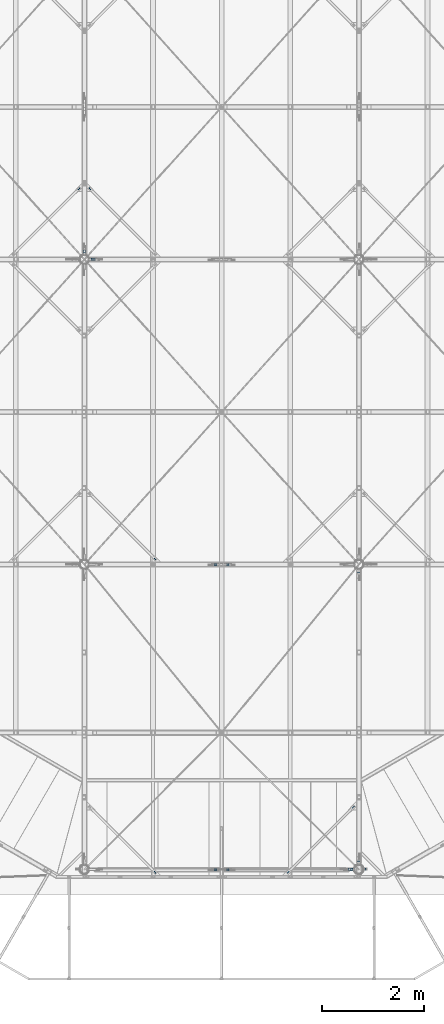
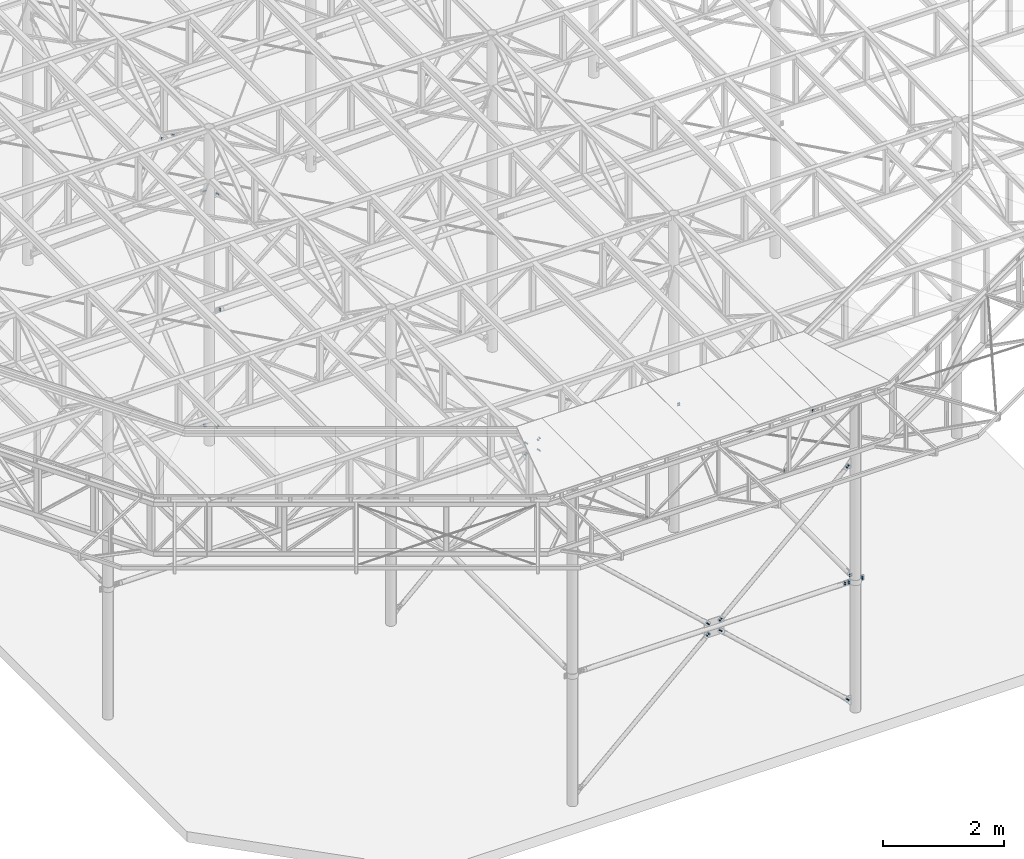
# One storey, part 117 of 132: 26 mechanical fasteners, 20 elements without a shape of their own.
"""IFC2X3 building model written with IfcOpenShell, lengths in millimetres."""

import ifcopenshell
import ifcopenshell.guid

model = None  # the IFC model being written
_history = None  # IfcOwnerHistory: only IFC2X3 demands one
_inside = {}  # id of a spatial element -> (the spatial element, [elements in it])
_under = {}  # id of a project, library or spatial element -> (it, [spatial elements below it])
_declared = {}  # id of a project -> (the project, [libraries it declares])
_typed = {}  # id of a type object -> (the type object, [elements of that type])
_made_of = {}  # id of a material, layer set ... -> (it, [elements and type objects made of it])


def new_model(schema):
    """Start an empty IFC model of exactly this schema.

    Asked for "IFC4X3", IfcOpenShell would pick the latest addendum, in which some entities
    have other attributes; the version numbers below select the first issue.
    IFC2X3 requires an IfcOwnerHistory on every rooted entity: one is made here for all.
    """
    global model, _history
    if schema == "IFC4X3":
        model = ifcopenshell.file(schema_version=(4, 3, 0, 0))
    else:
        model = ifcopenshell.file(schema=schema)
    _inside.clear()
    _under.clear()
    _declared.clear()
    _typed.clear()
    _made_of.clear()
    _history = None
    if model.schema == "IFC2X3":
        org = make("IfcOrganization", Name="unknown")
        user = make(
            "IfcPersonAndOrganization",
            ThePerson=make("IfcPerson", FamilyName="unknown"),
            TheOrganization=org,
        )
        app = make(
            "IfcApplication",
            ApplicationDeveloper=org,
            Version="unknown",
            ApplicationFullName="unknown",
            ApplicationIdentifier="unknown",
        )
        _history = make(
            "IfcOwnerHistory",
            OwningUser=user,
            OwningApplication=app,
            ChangeAction="ADDED",
            CreationDate=0,
        )
    return model


def make(cls, **values):
    """One entity of the class cls with the attributes given. An attribute that is None is left unset."""
    return model.create_entity(
        cls, **{name: value for name, value in values.items() if value is not None}
    )


def rooted(cls, **values):
    """An entity with a GlobalId (a new one), such as an element, a storey or a relation."""
    return make(cls, GlobalId=ifcopenshell.guid.new(), OwnerHistory=_history, **values)


def si_unit(unit_type, name, prefix=None):
    """IfcSIUnit, for example si_unit("LENGTHUNIT", "METRE", prefix="MILLI")."""
    return make("IfcSIUnit", UnitType=unit_type, Prefix=prefix, Name=name)


def assignment(units):
    """IfcUnitAssignment: the units of a project."""
    return None if units is None else make("IfcUnitAssignment", Units=units)


def point(xyz):
    """IfcCartesianPoint."""
    return None if xyz is None else make("IfcCartesianPoint", Coordinates=xyz)


def direction(xyz):
    """IfcDirection."""
    return None if xyz is None else make("IfcDirection", DirectionRatios=xyz)


def frame(location, z_axis=None, x_axis=None):
    """IfcAxis2Placement3D, a coordinate frame: its origin and axes. An axis left out is left unset."""
    return make(
        "IfcAxis2Placement3D",
        Location=point(location),
        Axis=direction(z_axis),
        RefDirection=direction(x_axis),
    )


def frame_2d(location, x_axis=None):
    """IfcAxis2Placement2D, a coordinate frame in the plane: its origin and x axis."""
    return make(
        "IfcAxis2Placement2D", Location=point(location), RefDirection=direction(x_axis)
    )


def origin_with_axes():
    """The frame at (0, 0, 0) with the z axis (0, 0, 1) and the x axis (1, 0, 0) written out."""
    return frame((0.0, 0.0, 0.0), z_axis=(0.0, 0.0, 1.0), x_axis=(1.0, 0.0, 0.0))


def origin_2d_with_axis():
    """The frame at (0, 0) in the plane with the x axis (1, 0) written out."""
    return frame_2d((0.0, 0.0), x_axis=(1.0, 0.0))


def place(relative_to, where):
    """IfcLocalPlacement: puts the frame where relative to a parent placement (None: the world)."""
    return make(
        "IfcLocalPlacement", PlacementRelTo=relative_to, RelativePlacement=where
    )


def context(
    kind, dimensions, precision=None, world=None, true_north=None, identifier=None
):
    """IfcGeometricRepresentationContext, for example the 3D "Model" context."""
    return make(
        "IfcGeometricRepresentationContext",
        ContextIdentifier=identifier,
        ContextType=kind,
        CoordinateSpaceDimension=dimensions,
        Precision=precision,
        WorldCoordinateSystem=world,
        TrueNorth=true_north,
    )


def subcontext(parent, identifier, kind, view, scale=None):
    """IfcGeometricRepresentationSubContext, for example "Body" below "Model"."""
    return make(
        "IfcGeometricRepresentationSubContext",
        ContextIdentifier=identifier,
        ContextType=kind,
        ParentContext=parent,
        TargetScale=scale,
        TargetView=view,
    )


def project(units=None, contexts=None):
    """IfcProject with its units and contexts."""
    return rooted(
        "IfcProject",
        Name="project",
        RepresentationContexts=contexts,
        UnitsInContext=assignment(units),
    )


def spatial(cls, under=None, at=None, **own):
    """A site, building, storey or space (cls), placed at a placement, below another one or the project."""
    s = rooted(cls, ObjectPlacement=at, **own)
    if under is not None:
        _under.setdefault(under.id(), (under, []))[1].append(s)
    return s


def polyline(points):
    """IfcPolyline through the points."""
    return make("IfcPolyline", Points=[point(p) for p in points])


def profile(cls, at=None, kind="AREA", **sizes):
    """A parametric profile (cls). Its sizes go by their IFC names, for example OverallWidth=200.0."""
    return make(cls, ProfileType=kind, Position=at, **sizes)


def circle(**sizes):
    """IfcCircleProfileDef."""
    return profile("IfcCircleProfileDef", **sizes)


def outline(outer, holes=None, kind="AREA"):
    """IfcArbitraryClosedProfileDef: a profile drawn as a closed curve; with holes, ...WithVoids."""
    if holes is None:
        return make("IfcArbitraryClosedProfileDef", ProfileType=kind, OuterCurve=outer)
    return make(
        "IfcArbitraryProfileDefWithVoids",
        ProfileType=kind,
        OuterCurve=outer,
        InnerCurves=holes,
    )


def extrude(swept, where, along, depth):
    """IfcExtrudedAreaSolid: the profile swept, set in the frame where, extruded along a direction by depth."""
    return make(
        "IfcExtrudedAreaSolid",
        SweptArea=swept,
        Position=where,
        ExtrudedDirection=direction(along),
        Depth=depth,
    )


def shape(context_of_items, identifier, shape_type, items):
    """IfcShapeRepresentation: the items that make up one representation, for example the "Body"."""
    return make(
        "IfcShapeRepresentation",
        ContextOfItems=context_of_items,
        RepresentationIdentifier=identifier,
        RepresentationType=shape_type,
        Items=items,
    )


def source(mapping_origin, context_of_items, identifier, shape_type, items):
    """IfcRepresentationMap: a shape defined once, which mapped items show again and again."""
    return make(
        "IfcRepresentationMap",
        MappingOrigin=mapping_origin,
        MappedRepresentation=shape(context_of_items, identifier, shape_type, items),
    )


def transform(
    local_origin,
    x_axis=None,
    y_axis=None,
    z_axis=None,
    scale=None,
    scale2=None,
    scale3=None,
    uniform=True,
):
    """IfcCartesianTransformationOperator3D, or its non-uniform kind. x_axis, y_axis, z_axis: its Axis1, 2, 3."""
    if uniform:
        return make(
            "IfcCartesianTransformationOperator3D",
            Axis1=direction(x_axis),
            Axis2=direction(y_axis),
            LocalOrigin=point(local_origin),
            Scale=scale,
            Axis3=direction(z_axis),
        )
    return make(
        "IfcCartesianTransformationOperator3DnonUniform",
        Axis1=direction(x_axis),
        Axis2=direction(y_axis),
        LocalOrigin=point(local_origin),
        Scale=scale,
        Axis3=direction(z_axis),
        Scale2=scale2,
        Scale3=scale3,
    )


def mapped(mapping_source, mapping_target):
    """IfcMappedItem: shows the shape of a source again, moved by a transform."""
    return make(
        "IfcMappedItem", MappingSource=mapping_source, MappingTarget=mapping_target
    )


def material(Name=None, Category=None):
    """IfcMaterial."""
    return make("IfcMaterial", Name=Name, Category=Category)


def made_of(thing, what):
    """Note that an element or type object is made of a material, layer set ...; save() writes the relation."""
    if what is not None:
        _made_of.setdefault(what.id(), (what, []))[1].append(thing)
    return thing


def type_object(cls, material=None, **own):
    """A type object (cls), such as IfcWallType, which elements share."""
    return made_of(rooted(cls, **own), material)


def element(
    cls,
    number,
    at=None,
    inside=None,
    cuts=None,
    type_object=None,
    material=None,
    context=None,
    identifier="Body",
    shape_type=None,
    held_by="IfcProductDefinitionShape",
    body=None,
    shapes=None,
    **own,
):
    """One element of the class cls, such as IfcWall. Its Tag is "e" and its number.

    at: its placement. inside: the storey or other place that contains it. cuts: it is an
    opening in that element (IfcRelVoidsElement). A single representation is given by context,
    identifier, shape_type and body (its items); several are given by shapes. held_by: the class
    of the entity that holds the representations. save() writes the other relations.
    """
    e = rooted(cls, Tag="e%d" % number, ObjectPlacement=at, **own)
    if body is not None:
        shapes = [shape(context, identifier, shape_type, body)]
    if shapes is not None:
        e.Representation = make(held_by, Representations=shapes)
    if inside is not None:
        _inside.setdefault(inside.id(), (inside, []))[1].append(e)
    if cuts is not None:
        rooted(
            "IfcRelVoidsElement", RelatingBuildingElement=cuts, RelatedOpeningElement=e
        )
    if type_object is not None:
        _typed.setdefault(type_object.id(), (type_object, []))[1].append(e)
    return made_of(e, material)


def aggregate(whole, parts):
    """IfcRelAggregates: a whole, such as a stair, and the parts it consists of."""
    return rooted("IfcRelAggregates", RelatingObject=whole, RelatedObjects=parts)


def save(model, path):
    """Write the relations noted so far, then the file.

    IfcRelAggregates (storeys below a building ...), IfcRelContainedInSpatialStructure (elements
    in a storey), IfcRelDefinesByType, IfcRelAssociatesMaterial and IfcRelDeclares: one each for
    every whole, place, type object, material and project.
    """
    for whole, parts in _under.values():
        aggregate(whole, parts)
    for where, things in _inside.values():
        rooted(
            "IfcRelContainedInSpatialStructure",
            RelatedElements=things,
            RelatingStructure=where,
        )
    for kind, things in _typed.values():
        rooted("IfcRelDefinesByType", RelatedObjects=things, RelatingType=kind)
    for what, things in _made_of.values():
        rooted("IfcRelAssociatesMaterial", RelatedObjects=things, RelatingMaterial=what)
    for by, libraries in _declared.values():
        rooted("IfcRelDeclares", RelatingContext=by, RelatedDefinitions=libraries)
    model.write(path)


model = new_model("IFC2X3")

# Units and contexts
model_context = context("Model", 3, precision=1e-05, world=origin_with_axes())
body_context = subcontext(model_context, "Body", "Model", "MODEL_VIEW")
ifc_project = project(units=[si_unit("LENGTHUNIT", "METRE", prefix="MILLI"), si_unit("AREAUNIT", "SQUARE_METRE"), si_unit("VOLUMEUNIT", "CUBIC_METRE"), si_unit("MASSUNIT", "GRAM", prefix="KILO"), si_unit("TIMEUNIT", "SECOND"), si_unit("PLANEANGLEUNIT", "RADIAN"), si_unit("SOLIDANGLEUNIT", "STERADIAN"), si_unit("THERMODYNAMICTEMPERATUREUNIT", "DEGREE_CELSIUS"), si_unit("LUMINOUSINTENSITYUNIT", "LUMEN")], contexts=[model_context])

# Site, building, storey
site_placement = place(None, origin_with_axes())
site = spatial("IfcSite", under=ifc_project, at=site_placement, Name="Budowa", CompositionType="ELEMENT")
building_placement = place(site_placement, origin_with_axes())
building = spatial("IfcBuilding", under=site, at=building_placement, Name="Undefined", CompositionType="ELEMENT")
storey_placement = place(building_placement, origin_with_axes())
storey = spatial("IfcBuildingStorey", under=building, at=storey_placement, Name="Undefined", CompositionType="ELEMENT", Elevation=0.0)

# Assembly, mechanical fastener
assembly_1_placement = place(storey_placement, origin_with_axes())
assembly_1 = element("IfcElementAssembly", 1, at=assembly_1_placement, inside=storey, Name="Steel Assembly", AssemblyPlace="NOTDEFINED", PredefinedType="RIGID_FRAME")
ifc_material = material(Name="Undefined")
discrete_accessory_type = type_object("IfcDiscreteAccessoryType", Name="Bolt assembly")
shared_shape_1 = source(origin_with_axes(), body_context, "Body", "SweptSolid", [
    extrude(circle(Radius=9.5, at=origin_2d_with_axis()), frame((0.0, -4.09999999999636, 0.0), z_axis=(0.0, 1.0, 0.0), x_axis=(1.0, 0.0, 0.0)), (0.0, 0.0, 1.0), 8.1),
    extrude(circle(Radius=9.5, at=origin_2d_with_axis()), frame((0.0, -11.9, 0.0), z_axis=(0.0, 1.0, 0.0), x_axis=(1.0, 0.0, 0.0)), (0.0, 0.0, 1.0), 8.0),
    extrude(outline(polyline([(13.85640646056, 0.0), (6.92820323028, 12.0000000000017), (-6.92820323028, 12.0000000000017), (-13.85640646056, 0.0), (-6.92820323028, -12.0000000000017), (6.92820323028, -12.0000000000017), (13.85640646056, 0.0)])), frame((0.0, -25.0, 0.0), z_axis=(0.0, 1.0, 0.0), x_axis=(1.0, 0.0, 0.0)), (0.0, 0.0, 1.0), 10.0),
    extrude(circle(Radius=8.0, at=origin_2d_with_axis()), frame((0.0, -15.0, 0.0), z_axis=(0.0, 1.0, 0.0), x_axis=(1.0, 0.0, 0.0)), (0.0, 0.0, 1.0), 40.0),
    extrude(circle(Radius=15.0, at=origin_2d_with_axis()), frame((0.0, -15.0, 0.0), z_axis=(0.0, 1.0, 0.0), x_axis=(1.0, 0.0, 0.0)), (0.0, 0.0, 1.0), 3.0),
    extrude(circle(Radius=15.0, at=origin_2d_with_axis()), frame((0.0, 4.0, 0.0), z_axis=(0.0, 1.0, 0.0), x_axis=(1.0, 0.0, 0.0)), (0.0, 0.0, 1.0), 3.0),
    extrude(outline(polyline([(13.85640646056, 0.0), (6.92820323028, 12.0000000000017), (-6.92820323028, 12.0000000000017), (-13.85640646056, 0.0), (-6.92820323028, -12.0000000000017), (6.92820323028, -12.0000000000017), (13.85640646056, 0.0)])), frame((0.0, 7.0, 0.0), z_axis=(0.0, 1.0, 0.0), x_axis=(1.0, 0.0, 0.0)), (0.0, 0.0, 1.0), 13.0),
])
mechanical_fastener_1_placement = place(assembly_1_placement, frame((12231.0887636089, -2.00000288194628, 10018.0008271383), z_axis=(0.678551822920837, 0.0, 0.734552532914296), x_axis=(0.734552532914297, 0.0, -0.678551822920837)))
mechanical_fastener_1 = element("IfcMechanicalFastener", 2, at=mechanical_fastener_1_placement, type_object=discrete_accessory_type, material=ifc_material, Name="Bolt assembly", NominalDiameter=16.0, NominalLength=40.0, context=body_context, shape_type="MappedRepresentation", body=[
    mapped(shared_shape_1, transform((0.0, 0.0, 0.0))),
    mapped(shared_shape_1, transform((40.0000000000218, 0.0, -1.81898940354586e-12))),
])

assembly_2_placement = place(storey_placement, origin_with_axes())
assembly_2 = element("IfcElementAssembly", 3, at=assembly_2_placement, inside=storey, Name="Steel Assembly", AssemblyPlace="NOTDEFINED", PredefinedType="RIGID_FRAME")
mechanical_fastener_2_placement = place(assembly_2_placement, frame((12018.9139021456, -2.00000288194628, 10018.0008231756), z_axis=(0.67855182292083, 0.0, -0.734552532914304), x_axis=(-0.734552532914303, 0.0, -0.67855182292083)))
mechanical_fastener_2 = element("IfcMechanicalFastener", 4, at=mechanical_fastener_2_placement, type_object=discrete_accessory_type, material=ifc_material, Name="Bolt assembly", NominalDiameter=16.0, NominalLength=40.0, context=body_context, shape_type="MappedRepresentation", body=[
    mapped(shared_shape_1, transform((0.0, 0.0, 0.0))),
    mapped(shared_shape_1, transform((40.0000000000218, 0.0, -1.81898940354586e-12))),
])
aggregate(assembly_2, [mechanical_fastener_2])

assembly_3_placement = place(storey_placement, origin_with_axes())
assembly_3 = element("IfcElementAssembly", 5, at=assembly_3_placement, inside=storey, Name="Steel Assembly", AssemblyPlace="NOTDEFINED", PredefinedType="RIGID_FRAME")
mechanical_fastener_3_placement = place(assembly_3_placement, frame((12018.9139021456, 5997.99999711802, 10018.0008231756), z_axis=(0.67855182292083, 0.0, -0.734552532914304), x_axis=(-0.734552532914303, 0.0, -0.67855182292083)))
mechanical_fastener_3 = element("IfcMechanicalFastener", 6, at=mechanical_fastener_3_placement, type_object=discrete_accessory_type, material=ifc_material, Name="Bolt assembly", NominalDiameter=16.0, NominalLength=40.0, context=body_context, shape_type="MappedRepresentation", body=[
    mapped(shared_shape_1, transform((0.0, 0.0, 0.0))),
    mapped(shared_shape_1, transform((40.0000000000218, 0.0, -1.81898940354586e-12))),
])
aggregate(assembly_3, [mechanical_fastener_3])

assembly_4_placement = place(storey_placement, origin_with_axes())
assembly_4 = element("IfcElementAssembly", 7, at=assembly_4_placement, inside=storey, Name="Steel Assembly", AssemblyPlace="NOTDEFINED", PredefinedType="RIGID_FRAME")
mechanical_fastener_4_placement = place(assembly_4_placement, frame((12231.0887636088, 5997.99999711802, 10018.0008271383), z_axis=(0.678551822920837, 0.0, 0.734552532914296), x_axis=(0.734552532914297, 0.0, -0.678551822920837)))
mechanical_fastener_4 = element("IfcMechanicalFastener", 8, at=mechanical_fastener_4_placement, type_object=discrete_accessory_type, material=ifc_material, Name="Bolt assembly", NominalDiameter=16.0, NominalLength=40.0, context=body_context, shape_type="MappedRepresentation", body=[
    mapped(shared_shape_1, transform((0.0, 0.0, 0.0))),
    mapped(shared_shape_1, transform((40.0000000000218, 0.0, -1.81898940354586e-12))),
])
aggregate(assembly_4, [mechanical_fastener_4])

assembly_5_placement = place(storey_placement, origin_with_axes())
assembly_5 = element("IfcElementAssembly", 9, at=assembly_5_placement, inside=storey, Name="Steel Assembly", AssemblyPlace="NOTDEFINED", PredefinedType="RIGID_FRAME")
mechanical_fastener_5_placement = place(assembly_5_placement, frame((12018.913903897, 5997.9999968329, 10213.9999310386), z_axis=(-0.67855182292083, 0.0, -0.734552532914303), x_axis=(-0.734552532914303, 0.0, 0.67855182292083)))
mechanical_fastener_5 = element("IfcMechanicalFastener", 10, at=mechanical_fastener_5_placement, type_object=discrete_accessory_type, material=ifc_material, Name="Bolt assembly", NominalDiameter=16.0, NominalLength=40.0, context=body_context, shape_type="MappedRepresentation", body=[
    mapped(shared_shape_1, transform((0.0, 0.0, 0.0))),
    mapped(shared_shape_1, transform((40.0000000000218, 0.0, -1.81898940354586e-12))),
])
aggregate(assembly_5, [mechanical_fastener_5])

assembly_6_placement = place(storey_placement, origin_with_axes())
assembly_6 = element("IfcElementAssembly", 11, at=assembly_6_placement, inside=storey, Name="Steel Assembly", AssemblyPlace="NOTDEFINED", PredefinedType="RIGID_FRAME")
mechanical_fastener_6_placement = place(assembly_6_placement, frame((12231.0887653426, 5997.9999968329, 10213.9999302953), z_axis=(-0.678551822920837, 0.0, 0.734552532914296), x_axis=(0.734552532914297, 0.0, 0.678551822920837)))
mechanical_fastener_6 = element("IfcMechanicalFastener", 12, at=mechanical_fastener_6_placement, type_object=discrete_accessory_type, material=ifc_material, Name="Bolt assembly", NominalDiameter=16.0, NominalLength=40.0, context=body_context, shape_type="MappedRepresentation", body=[
    mapped(shared_shape_1, transform((0.0, 0.0, 0.0))),
    mapped(shared_shape_1, transform((40.0000000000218, 0.0, -1.81898940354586e-12))),
])
aggregate(assembly_6, [mechanical_fastener_6])

assembly_7_placement = place(storey_placement, origin_with_axes())
assembly_7 = element("IfcElementAssembly", 13, at=assembly_7_placement, inside=storey, Name="Steel Assembly", AssemblyPlace="NOTDEFINED", PredefinedType="RIGID_FRAME")
mechanical_fastener_7_placement = place(assembly_7_placement, frame((12018.913903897, -2.00000316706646, 10213.9999310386), z_axis=(-0.67855182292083, 0.0, -0.734552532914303), x_axis=(-0.734552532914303, 0.0, 0.67855182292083)))
mechanical_fastener_7 = element("IfcMechanicalFastener", 14, at=mechanical_fastener_7_placement, type_object=discrete_accessory_type, material=ifc_material, Name="Bolt assembly", NominalDiameter=16.0, NominalLength=40.0, context=body_context, shape_type="MappedRepresentation", body=[
    mapped(shared_shape_1, transform((0.0, 0.0, 0.0))),
    mapped(shared_shape_1, transform((40.0000000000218, 0.0, -1.81898940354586e-12))),
])
aggregate(assembly_7, [mechanical_fastener_7])

assembly_8_placement = place(storey_placement, origin_with_axes())
assembly_8 = element("IfcElementAssembly", 15, at=assembly_8_placement, inside=storey, Name="Steel Assembly", AssemblyPlace="NOTDEFINED", PredefinedType="RIGID_FRAME")
mechanical_fastener_8_placement = place(assembly_8_placement, frame((12231.0887653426, -2.00000316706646, 10213.9999302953), z_axis=(-0.678551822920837, 0.0, 0.734552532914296), x_axis=(0.734552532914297, 0.0, 0.678551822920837)))
mechanical_fastener_8 = element("IfcMechanicalFastener", 16, at=mechanical_fastener_8_placement, type_object=discrete_accessory_type, material=ifc_material, Name="Bolt assembly", NominalDiameter=16.0, NominalLength=40.0, context=body_context, shape_type="MappedRepresentation", body=[
    mapped(shared_shape_1, transform((0.0, 0.0, 0.0))),
    mapped(shared_shape_1, transform((40.0000000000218, 0.0, -1.81898940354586e-12))),
])

assembly_9_placement = place(storey_placement, origin_with_axes())
assembly_9 = element("IfcElementAssembly", 17, at=assembly_9_placement, inside=storey, Name="Steel Assembly", AssemblyPlace="NOTDEFINED", PredefinedType="RIGID_FRAME")
shared_shape_2 = source(origin_with_axes(), body_context, "Body", "SweptSolid", [
    extrude(circle(Radius=9.0, at=origin_2d_with_axis()), frame((0.0, 0.0, 0.0), z_axis=(0.0, 1.0, 0.0), x_axis=(1.0, 0.0, 0.0)), (0.0, 0.0, 1.0), 8.1),
    extrude(outline(polyline([(13.85640646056, 0.0), (6.92820323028, 12.0000000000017), (-6.92820323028, 12.0000000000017), (-13.85640646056, 0.0), (-6.92820323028, -12.0000000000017), (6.92820323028, -12.0000000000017), (13.85640646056, 0.0)])), frame((0.0, -13.0, 0.0), z_axis=(0.0, 1.0, 0.0), x_axis=(1.0, 0.0, 0.0)), (0.0, 0.0, 1.0), 10.0),
    extrude(circle(Radius=8.0, at=origin_2d_with_axis()), frame((0.0, -2.99999999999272, 0.0), z_axis=(0.0, 1.0, 0.0), x_axis=(1.0, 0.0, 0.0)), (0.0, 0.0, 1.0), 40.0),
    extrude(circle(Radius=15.0, at=origin_2d_with_axis()), frame((0.0, -2.99999999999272, 0.0), z_axis=(0.0, 1.0, 0.0), x_axis=(1.0, 0.0, 0.0)), (0.0, 0.0, 1.0), 3.0),
    extrude(circle(Radius=15.0, at=origin_2d_with_axis()), frame((0.0, 8.00000000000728, 0.0), z_axis=(0.0, 1.0, 0.0), x_axis=(1.0, 0.0, 0.0)), (0.0, 0.0, 1.0), 3.0),
    extrude(outline(polyline([(13.85640646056, 0.0), (6.92820323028, 12.0000000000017), (-6.92820323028, 12.0000000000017), (-13.85640646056, 0.0), (-6.92820323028, -12.0000000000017), (6.92820323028, -12.0000000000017), (13.85640646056, 0.0)])), frame((0.0, 11.0000000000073, 0.0), z_axis=(0.0, 1.0, 0.0), x_axis=(1.0, 0.0, 0.0)), (0.0, 0.0, 1.0), 13.0),
])
mechanical_fastener_9_placement = place(assembly_9_placement, frame((9628.13669408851, 11993.9999994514, 10096.0003779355), z_axis=(-1.0, 0.0, 0.0), x_axis=(0.0, 0.0, 1.0)))
mechanical_fastener_9 = element("IfcMechanicalFastener", 18, at=mechanical_fastener_9_placement, type_object=discrete_accessory_type, material=ifc_material, Name="Bolt assembly", NominalDiameter=16.0, NominalLength=40.0, context=body_context, shape_type="MappedRepresentation", body=[
    mapped(shared_shape_2, transform((0.0, 0.0, 0.0))),
    mapped(shared_shape_2, transform((40.0000000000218, 0.0, -1.81898940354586e-12))),
])

assembly_10_placement = place(storey_placement, origin_with_axes())
assembly_10 = element("IfcElementAssembly", 19, at=assembly_10_placement, inside=storey, Name="Steel Assembly", AssemblyPlace="NOTDEFINED", PredefinedType="RIGID_FRAME")
shared_shape_3 = source(origin_with_axes(), body_context, "Body", "SweptSolid", [
    extrude(circle(Radius=9.0, at=origin_2d_with_axis()), frame((0.0, 0.0999999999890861, 0.0), z_axis=(0.0, 1.0, 0.0), x_axis=(1.0, 0.0, 0.0)), (0.0, 0.0, 1.0), 8.0),
    extrude(circle(Radius=9.0, at=origin_2d_with_axis()), frame((0.0, 11.9000000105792, 0.0), z_axis=(0.0, 1.0, 0.0), x_axis=(1.0, 0.0, 0.0)), (0.0, 0.0, 1.0), 8.1),
    extrude(outline(polyline([(13.85640646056, 0.0), (6.92820323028, 12.0000000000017), (-6.92820323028, 12.0000000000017), (-13.85640646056, 0.0), (-6.92820323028, -12.0000000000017), (6.92820323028, -12.0000000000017), (13.85640646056, 0.0)])), frame((0.0, -13.0, 0.0), z_axis=(0.0, 1.0, 0.0), x_axis=(1.0, 0.0, 0.0)), (0.0, 0.0, 1.0), 10.0),
    extrude(circle(Radius=8.0, at=origin_2d_with_axis()), frame((0.0, -2.99999999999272, 0.0), z_axis=(0.0, 1.0, 0.0), x_axis=(1.0, 0.0, 0.0)), (0.0, 0.0, 1.0), 45.0),
    extrude(circle(Radius=15.0, at=origin_2d_with_axis()), frame((0.0, -2.99999999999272, 0.0), z_axis=(0.0, 1.0, 0.0), x_axis=(1.0, 0.0, 0.0)), (0.0, 0.0, 1.0), 3.0),
    extrude(circle(Radius=15.0, at=origin_2d_with_axis()), frame((0.0, 20.0000000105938, 0.0), z_axis=(0.0, 1.0, 0.0), x_axis=(1.0, 0.0, 0.0)), (0.0, 0.0, 1.0), 3.0),
    extrude(outline(polyline([(13.85640646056, 0.0), (6.92820323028, 12.0000000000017), (-6.92820323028, 12.0000000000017), (-13.85640646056, 0.0), (-6.92820323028, -12.0000000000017), (6.92820323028, -12.0000000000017), (13.85640646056, 0.0)])), frame((0.0, 23.0000000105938, 0.0), z_axis=(0.0, 1.0, 0.0), x_axis=(1.0, 0.0, 0.0)), (0.0, 0.0, 1.0), 13.0),
])
mechanical_fastener_10_placement = place(assembly_10_placement, frame((14953.1367126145, -9.99999995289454, 10096.0003779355), z_axis=(-1.0, 0.0, 0.0), x_axis=(0.0, 0.0, 1.0)))
mechanical_fastener_10 = element("IfcMechanicalFastener", 20, at=mechanical_fastener_10_placement, type_object=discrete_accessory_type, material=ifc_material, Name="Bolt assembly", NominalDiameter=16.0, NominalLength=45.0, context=body_context, shape_type="MappedRepresentation", body=[
    mapped(shared_shape_3, transform((0.0, 0.0, 0.0))),
    mapped(shared_shape_3, transform((40.0000000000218, 0.0, -1.81898940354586e-12))),
])

# Assembly, mechanical fasteners
assembly_11_placement = place(storey_placement, origin_with_axes())
assembly_11 = element("IfcElementAssembly", 21, at=assembly_11_placement, inside=storey, Name="Steel Assembly", AssemblyPlace="NOTDEFINED", PredefinedType="RIGID_FRAME")
shared_shape_4 = source(origin_with_axes(), body_context, "Body", "SweptSolid", [
    extrude(circle(Radius=9.0, at=origin_2d_with_axis()), frame((0.0, -4.09999999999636, 0.0), z_axis=(0.0, 1.0, 0.0), x_axis=(1.0, 0.0, 0.0)), (0.0, 0.0, 1.0), 8.1),
    extrude(circle(Radius=9.0, at=origin_2d_with_axis()), frame((0.0, -11.9, 0.0), z_axis=(0.0, 1.0, 0.0), x_axis=(1.0, 0.0, 0.0)), (0.0, 0.0, 1.0), 8.0),
    extrude(outline(polyline([(13.85640646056, 0.0), (6.92820323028, 12.0000000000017), (-6.92820323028, 12.0000000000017), (-13.85640646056, 0.0), (-6.92820323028, -12.0000000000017), (6.92820323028, -12.0000000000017), (13.85640646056, 0.0)])), frame((0.0, -25.0, 0.0), z_axis=(0.0, 1.0, 0.0), x_axis=(1.0, 0.0, 0.0)), (0.0, 0.0, 1.0), 10.0),
    extrude(circle(Radius=8.0, at=origin_2d_with_axis()), frame((0.0, -15.0, 0.0), z_axis=(0.0, 1.0, 0.0), x_axis=(1.0, 0.0, 0.0)), (0.0, 0.0, 1.0), 40.0),
    extrude(circle(Radius=15.0, at=origin_2d_with_axis()), frame((0.0, -15.0, 0.0), z_axis=(0.0, 1.0, 0.0), x_axis=(1.0, 0.0, 0.0)), (0.0, 0.0, 1.0), 3.0),
    extrude(circle(Radius=15.0, at=origin_2d_with_axis()), frame((0.0, 4.0, 0.0), z_axis=(0.0, 1.0, 0.0), x_axis=(1.0, 0.0, 0.0)), (0.0, 0.0, 1.0), 3.0),
    extrude(outline(polyline([(13.85640646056, 0.0), (6.92820323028, 12.0000000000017), (-6.92820323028, 12.0000000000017), (-13.85640646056, 0.0), (-6.92820323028, -12.0000000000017), (6.92820323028, -12.0000000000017), (13.85640646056, 0.0)])), frame((0.0, 7.0, 0.0), z_axis=(0.0, 1.0, 0.0), x_axis=(1.0, 0.0, 0.0)), (0.0, 0.0, 1.0), 13.0),
])
mechanical_fastener_11_placement = place(assembly_11_placement, frame((14824.9999972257, 5842.09209471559, 10116.0003779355), z_axis=(0.0, 0.0, -1.0), x_axis=(0.0, -1.0, 0.0)))
mechanical_fastener_11 = element("IfcMechanicalFastener", 22, at=mechanical_fastener_11_placement, type_object=discrete_accessory_type, material=ifc_material, Name="Bolt assembly", NominalDiameter=16.0, NominalLength=40.0, context=body_context, shape_type="MappedRepresentation", body=[
    mapped(shared_shape_4, transform((0.0, 0.0, -20.0))),
    mapped(shared_shape_4, transform((0.0, 0.0, 20.0))),
])
mechanical_fastener_12_placement = place(assembly_11_placement, frame((14824.9999969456, 157.907905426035, 10116.0003779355), z_axis=(0.0, 0.0, 1.0), x_axis=(0.0, 1.0, 0.0)))
mechanical_fastener_12 = element("IfcMechanicalFastener", 23, at=mechanical_fastener_12_placement, type_object=discrete_accessory_type, material=ifc_material, Name="Bolt assembly", NominalDiameter=16.0, NominalLength=40.0, context=body_context, shape_type="MappedRepresentation", body=[
    mapped(shared_shape_4, transform((0.0, 0.0, -20.0))),
    mapped(shared_shape_4, transform((0.0, 0.0, 20.0))),
])
aggregate(assembly_11, [mechanical_fastener_11, mechanical_fastener_12])

# Assembly, mechanical fastener
assembly_12_placement = place(storey_placement, origin_with_axes())
assembly_12 = element("IfcElementAssembly", 24, at=assembly_12_placement, inside=storey, Name="Steel Assembly", AssemblyPlace="NOTDEFINED", PredefinedType="RIGID_FRAME")
mechanical_fastener_13_placement = place(assembly_12_placement, frame((9424.99999993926, 12140.1779391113, 7739.23081470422), z_axis=(0.0, -0.639165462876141, 0.769069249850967), x_axis=(0.0, 0.769069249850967, 0.639165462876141)))
mechanical_fastener_13 = element("IfcMechanicalFastener", 25, at=mechanical_fastener_13_placement, type_object=discrete_accessory_type, material=ifc_material, Name="Bolt assembly", NominalDiameter=16.0, NominalLength=40.0, context=body_context, shape_type="MappedRepresentation", body=[
    mapped(shared_shape_4, transform((0.0, 0.0, 0.0))),
    mapped(shared_shape_4, transform((40.0000000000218, 0.0, -1.81898940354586e-12))),
])
aggregate(assembly_12, [mechanical_fastener_13])

assembly_13_placement = place(storey_placement, origin_with_axes())
assembly_13 = element("IfcElementAssembly", 26, at=assembly_13_placement, inside=storey, Name="Steel Assembly", AssemblyPlace="NOTDEFINED", PredefinedType="RIGID_FRAME")
mechanical_fastener_14_placement = place(assembly_13_placement, frame((9424.99999994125, 12140.1779415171, 12492.7698566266), z_axis=(0.0, 0.639165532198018, 0.76906919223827), x_axis=(0.0, 0.769069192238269, -0.639165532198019)))
mechanical_fastener_14 = element("IfcMechanicalFastener", 27, at=mechanical_fastener_14_placement, type_object=discrete_accessory_type, material=ifc_material, Name="Bolt assembly", NominalDiameter=16.0, NominalLength=40.0, context=body_context, shape_type="MappedRepresentation", body=[
    mapped(shared_shape_4, transform((0.0, 0.0, 0.0))),
    mapped(shared_shape_4, transform((40.0000000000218, 0.0, -1.81898940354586e-12))),
])
aggregate(assembly_13, [mechanical_fastener_14])

# Mechanical fastener
mechanical_fastener_15_placement = place(assembly_9_placement, frame((9565.67385234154, 11999.9999976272, 7751.79053475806), z_axis=(-0.678551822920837, 0.0, 0.734552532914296), x_axis=(0.734552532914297, 0.0, 0.678551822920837)))
mechanical_fastener_15 = element("IfcMechanicalFastener", 28, at=mechanical_fastener_15_placement, type_object=discrete_accessory_type, material=ifc_material, Name="Bolt assembly", NominalDiameter=16.0, NominalLength=40.0, context=body_context, shape_type="MappedRepresentation", body=[
    mapped(shared_shape_4, transform((0.0, 0.0, 0.0))),
    mapped(shared_shape_4, transform((40.0000000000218, 0.0, -1.81898940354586e-12))),
])

aggregate(assembly_9, [mechanical_fastener_9, mechanical_fastener_15])

# Assembly, mechanical fastener
assembly_14_placement = place(storey_placement, origin_with_axes())
assembly_14 = element("IfcElementAssembly", 29, at=assembly_14_placement, inside=storey, Name="Steel Assembly", AssemblyPlace="NOTDEFINED", PredefinedType="RIGID_FRAME")
mechanical_fastener_16_placement = place(assembly_14_placement, frame((9565.67385211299, 11999.9999975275, 12480.210221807), z_axis=(0.678551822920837, 0.0, 0.734552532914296), x_axis=(0.734552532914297, 0.0, -0.678551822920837)))
mechanical_fastener_16 = element("IfcMechanicalFastener", 30, at=mechanical_fastener_16_placement, type_object=discrete_accessory_type, material=ifc_material, Name="Bolt assembly", NominalDiameter=16.0, NominalLength=40.0, context=body_context, shape_type="MappedRepresentation", body=[
    mapped(shared_shape_4, transform((0.0, 0.0, 0.0))),
    mapped(shared_shape_4, transform((40.0000000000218, 0.0, -1.81898940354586e-12))),
])
aggregate(assembly_14, [mechanical_fastener_16])

# Mechanical fastener
shared_shape_5 = source(origin_with_axes(), body_context, "Body", "SweptSolid", [
    extrude(circle(Radius=9.0, at=origin_2d_with_axis()), frame((0.0, 0.0999999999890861, 0.0), z_axis=(0.0, 1.0, 0.0), x_axis=(1.0, 0.0, 0.0)), (0.0, 0.0, 1.0), 8.0),
    extrude(circle(Radius=9.0, at=origin_2d_with_axis()), frame((0.0, 7.9000007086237, 0.0), z_axis=(0.0, 1.0, 0.0), x_axis=(1.0, 0.0, 0.0)), (0.0, 0.0, 1.0), 8.1),
    extrude(outline(polyline([(13.85640646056, 0.0), (6.92820323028, 12.0000000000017), (-6.92820323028, 12.0000000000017), (-13.85640646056, 0.0), (-6.92820323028, -12.0000000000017), (6.92820323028, -12.0000000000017), (13.85640646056, 0.0)])), frame((0.0, -13.0, 0.0), z_axis=(0.0, 1.0, 0.0), x_axis=(1.0, 0.0, 0.0)), (0.0, 0.0, 1.0), 10.0),
    extrude(circle(Radius=8.0, at=origin_2d_with_axis()), frame((0.0, -2.99999999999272, 0.0), z_axis=(0.0, 1.0, 0.0), x_axis=(1.0, 0.0, 0.0)), (0.0, 0.0, 1.0), 40.0),
    extrude(circle(Radius=15.0, at=origin_2d_with_axis()), frame((0.0, -2.99999999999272, 0.0), z_axis=(0.0, 1.0, 0.0), x_axis=(1.0, 0.0, 0.0)), (0.0, 0.0, 1.0), 3.0),
    extrude(circle(Radius=15.0, at=origin_2d_with_axis()), frame((0.0, 16.0000007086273, 0.0), z_axis=(0.0, 1.0, 0.0), x_axis=(1.0, 0.0, 0.0)), (0.0, 0.0, 1.0), 3.0),
    extrude(outline(polyline([(13.85640646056, 0.0), (6.92820323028, 12.0000000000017), (-6.92820323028, 12.0000000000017), (-13.85640646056, 0.0), (-6.92820323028, -12.0000000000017), (6.92820323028, -12.0000000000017), (13.85640646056, 0.0)])), frame((0.0, 19.0000007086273, 0.0), z_axis=(0.0, 1.0, 0.0), x_axis=(1.0, 0.0, 0.0)), (0.0, 0.0, 1.0), 13.0),
])
mechanical_fastener_17_placement = place(assembly_10_placement, frame((14621.863305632, -6.00000054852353, 10096.0003779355), z_axis=(-1.0, 0.0, 0.0), x_axis=(0.0, 0.0, 1.0)))
mechanical_fastener_17 = element("IfcMechanicalFastener", 31, at=mechanical_fastener_17_placement, type_object=discrete_accessory_type, material=ifc_material, Name="Bolt assembly", NominalDiameter=16.0, NominalLength=40.0, context=body_context, shape_type="MappedRepresentation", body=[
    mapped(shared_shape_5, transform((0.0, 0.0, 0.0))),
    mapped(shared_shape_5, transform((40.0000000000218, 0.0, -1.81898940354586e-12))),
])

aggregate(assembly_10, [mechanical_fastener_17, mechanical_fastener_10])

# Assembly, mechanical fastener
assembly_15_placement = place(storey_placement, origin_with_axes())
assembly_15 = element("IfcElementAssembly", 32, at=assembly_15_placement, inside=storey, Name="Steel Assembly", AssemblyPlace="NOTDEFINED", PredefinedType="RIGID_FRAME")
shared_shape_6 = source(origin_with_axes(), body_context, "Body", "SweptSolid", [
    extrude(circle(Radius=9.0, at=origin_2d_with_axis()), frame((0.0, 11.9000000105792, 0.0), z_axis=(0.0, 1.0, 0.0), x_axis=(1.0, 0.0, 0.0)), (0.0, 0.0, 1.0), 8.1),
    extrude(circle(Radius=9.0, at=origin_2d_with_axis()), frame((0.0, 0.0999999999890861, 0.0), z_axis=(0.0, 1.0, 0.0), x_axis=(1.0, 0.0, 0.0)), (0.0, 0.0, 1.0), 8.0),
    extrude(outline(polyline([(13.85640646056, 0.0), (6.92820323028, 12.0000000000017), (-6.92820323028, 12.0000000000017), (-13.85640646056, 0.0), (-6.92820323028, -12.0000000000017), (6.92820323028, -12.0000000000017), (13.85640646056, 0.0)])), frame((0.0, -13.0, 0.0), z_axis=(0.0, 1.0, 0.0), x_axis=(1.0, 0.0, 0.0)), (0.0, 0.0, 1.0), 10.0),
    extrude(circle(Radius=8.0, at=origin_2d_with_axis()), frame((0.0, -2.99999999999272, 0.0), z_axis=(0.0, 1.0, 0.0), x_axis=(1.0, 0.0, 0.0)), (0.0, 0.0, 1.0), 45.0),
    extrude(circle(Radius=15.0, at=origin_2d_with_axis()), frame((0.0, -2.99999999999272, 0.0), z_axis=(0.0, 1.0, 0.0), x_axis=(1.0, 0.0, 0.0)), (0.0, 0.0, 1.0), 3.0),
    extrude(circle(Radius=15.0, at=origin_2d_with_axis()), frame((0.0, 20.0000000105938, 0.0), z_axis=(0.0, 1.0, 0.0), x_axis=(1.0, 0.0, 0.0)), (0.0, 0.0, 1.0), 3.0),
    extrude(outline(polyline([(13.85640646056, 0.0), (6.92820323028, 12.0000000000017), (-6.92820323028, 12.0000000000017), (-13.85640646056, 0.0), (-6.92820323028, -12.0000000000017), (6.92820323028, -12.0000000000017), (13.85640646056, 0.0)])), frame((0.0, 23.0000000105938, 0.0), z_axis=(0.0, 1.0, 0.0), x_axis=(1.0, 0.0, 0.0)), (0.0, 0.0, 1.0), 13.0),
])
mechanical_fastener_18_placement = place(assembly_15_placement, frame((14696.863305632, -10.0000000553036, 10096.0003779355), z_axis=(-1.0, 0.0, 0.0), x_axis=(0.0, 0.0, 1.0)))
mechanical_fastener_18 = element("IfcMechanicalFastener", 33, at=mechanical_fastener_18_placement, type_object=discrete_accessory_type, material=ifc_material, Name="Bolt assembly", NominalDiameter=16.0, NominalLength=45.0, context=body_context, shape_type="MappedRepresentation", body=[
    mapped(shared_shape_6, transform((0.0, 0.0, 0.0))),
    mapped(shared_shape_6, transform((40.0000000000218, 0.0, -1.81898940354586e-12))),
])
aggregate(assembly_15, [mechanical_fastener_18])

# Mechanical fastener
shared_shape_7 = source(origin_with_axes(), body_context, "Body", "SweptSolid", [
    extrude(circle(Radius=9.5, at=origin_2d_with_axis()), frame((0.0, -2.10099750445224, 0.0), z_axis=(0.0, 1.0, 0.0), x_axis=(1.0, 0.0, 0.0)), (0.0, 0.0, 1.0), 8.1),
    extrude(circle(Radius=9.5, at=origin_2d_with_axis()), frame((0.0, -11.9, 0.0), z_axis=(0.0, 1.0, 0.0), x_axis=(1.0, 0.0, 0.0)), (0.0, 0.0, 1.0), 8.0),
    extrude(outline(polyline([(13.85640646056, 0.0), (6.92820323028, 12.0000000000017), (-6.92820323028, 12.0000000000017), (-13.85640646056, 0.0), (-6.92820323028, -12.0000000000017), (6.92820323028, -12.0000000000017), (13.85640646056, 0.0)])), frame((0.0, -25.0, 0.0), z_axis=(0.0, 1.0, 0.0), x_axis=(1.0, 0.0, 0.0)), (0.0, 0.0, 1.0), 10.0),
    extrude(circle(Radius=8.0, at=origin_2d_with_axis()), frame((0.0, -15.0, 0.0), z_axis=(0.0, 1.0, 0.0), x_axis=(1.0, 0.0, 0.0)), (0.0, 0.0, 1.0), 45.0),
    extrude(circle(Radius=15.0, at=origin_2d_with_axis()), frame((0.0, -15.0, 0.0), z_axis=(0.0, 1.0, 0.0), x_axis=(1.0, 0.0, 0.0)), (0.0, 0.0, 1.0), 3.0),
    extrude(circle(Radius=15.0, at=origin_2d_with_axis()), frame((0.0, 5.99900249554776, 0.0), z_axis=(0.0, 1.0, 0.0), x_axis=(1.0, 0.0, 0.0)), (0.0, 0.0, 1.0), 3.0),
    extrude(outline(polyline([(13.85640646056, 0.0), (6.92820323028, 12.0000000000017), (-6.92820323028, 12.0000000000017), (-13.85640646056, 0.0), (-6.92820323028, -12.0000000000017), (6.92820323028, -12.0000000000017), (13.85640646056, 0.0)])), frame((0.0, 8.99900249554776, 0.0), z_axis=(0.0, 1.0, 0.0), x_axis=(1.0, 0.0, 0.0)), (0.0, 0.0, 1.0), 13.0),
])
mechanical_fastener_19_placement = place(assembly_8_placement, frame((14684.3261492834, -2.00000237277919, 12480.2077566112), z_axis=(0.67855182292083, 0.0, -0.734552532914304), x_axis=(-0.734552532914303, 0.0, -0.67855182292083)))
mechanical_fastener_19 = element("IfcMechanicalFastener", 34, at=mechanical_fastener_19_placement, type_object=discrete_accessory_type, material=ifc_material, Name="Bolt assembly", NominalDiameter=16.0, NominalLength=45.0, context=body_context, shape_type="MappedRepresentation", body=[
    mapped(shared_shape_7, transform((0.0, 0.0, 0.0))),
    mapped(shared_shape_7, transform((40.0000000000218, 0.0, -1.81898940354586e-12))),
])

aggregate(assembly_8, [mechanical_fastener_8, mechanical_fastener_19])

mechanical_fastener_20_placement = place(assembly_1_placement, frame((14684.3261497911, -2.00000265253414, 7751.7929987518), z_axis=(-0.67855182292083, 0.0, -0.734552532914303), x_axis=(-0.734552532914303, 0.0, 0.67855182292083)))
mechanical_fastener_20 = element("IfcMechanicalFastener", 35, at=mechanical_fastener_20_placement, type_object=discrete_accessory_type, material=ifc_material, Name="Bolt assembly", NominalDiameter=16.0, NominalLength=45.0, context=body_context, shape_type="MappedRepresentation", body=[
    mapped(shared_shape_7, transform((0.0, 0.0, 0.0))),
    mapped(shared_shape_7, transform((40.0000000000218, 0.0, -1.81898940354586e-12))),
])

aggregate(assembly_1, [mechanical_fastener_1, mechanical_fastener_20])

# Assembly, mechanical fasteners
assembly_16_placement = place(storey_placement, origin_with_axes())
assembly_16 = element("IfcElementAssembly", 36, at=assembly_16_placement, inside=storey, Name="Steel Assembly", AssemblyPlace="NOTDEFINED", PredefinedType="RIGID_FRAME")
shared_shape_8 = source(origin_with_axes(), body_context, "Body", "SweptSolid", [
    extrude(circle(Radius=6.5, at=origin_2d_with_axis()), frame((0.0, -3.1, 0.0), z_axis=(0.0, 1.0, 0.0), x_axis=(1.0, 0.0, 0.0)), (0.0, 0.0, 1.0), 6.1),
    extrude(circle(Radius=6.5, at=origin_2d_with_axis()), frame((0.0, -8.9, 0.0), z_axis=(0.0, 1.0, 0.0), x_axis=(1.0, 0.0, 0.0)), (0.0, 0.0, 1.0), 6.0),
    extrude(outline(polyline([(10.39230484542, 0.0), (5.19615242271, 9.00000000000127), (-5.19615242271, 9.00000000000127), (-10.39230484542, 0.0), (-5.19615242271, -9.00000000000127), (5.19615242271, -9.00000000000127), (10.39230484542, 0.0)])), frame((0.0, -19.5, 0.0), z_axis=(0.0, 1.0, 0.0), x_axis=(1.0, 0.0, 0.0)), (0.0, 0.0, 1.0), 7.5),
    extrude(circle(Radius=6.0, at=origin_2d_with_axis()), frame((0.0, -12.0, 0.0), z_axis=(0.0, 1.0, 0.0), x_axis=(1.0, 0.0, 0.0)), (0.0, 0.0, 1.0), 35.0),
    extrude(circle(Radius=12.0, at=origin_2d_with_axis()), frame((0.0, -12.0, 0.0), z_axis=(0.0, 1.0, 0.0), x_axis=(1.0, 0.0, 0.0)), (0.0, 0.0, 1.0), 3.0),
    extrude(circle(Radius=12.0, at=origin_2d_with_axis()), frame((0.0, 3.0, 0.0), z_axis=(0.0, 1.0, 0.0), x_axis=(1.0, 0.0, 0.0)), (0.0, 0.0, 1.0), 3.0),
    extrude(outline(polyline([(10.96965511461, 0.0), (5.484827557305, 9.50000000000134), (-5.484827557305, 9.50000000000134), (-10.96965511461, 0.0), (-5.484827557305, -9.50000000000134), (5.484827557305, -9.50000000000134), (10.96965511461, 0.0)])), frame((0.0, 6.0, 0.0), z_axis=(0.0, 1.0, 0.0), x_axis=(1.0, 0.0, 0.0)), (0.0, 0.0, 1.0), 10.0),
])
mechanical_fastener_21_placement = place(assembly_16_placement, frame((13424.5553408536, -65.5446590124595, 12824.0), z_axis=(-0.707106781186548, 0.707106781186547, 0.0), x_axis=(0.707106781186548, 0.707106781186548, 0.0)))
mechanical_fastener_21 = element("IfcMechanicalFastener", 37, at=mechanical_fastener_21_placement, type_object=discrete_accessory_type, material=ifc_material, Name="Bolt assembly", NominalDiameter=12.0, NominalLength=35.0, context=body_context, shape_type="MappedRepresentation", body=[
    mapped(shared_shape_8, transform((0.0, 0.0, 0.0))),
    mapped(shared_shape_8, transform((29.9999999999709, 0.0, -1.16415321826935e-10))),
])
mechanical_fastener_22_placement = place(assembly_16_placement, frame((14725.6446590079, 1235.54465914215, 12824.0), z_axis=(0.707106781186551, -0.707106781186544, 0.0), x_axis=(-0.70710678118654, -0.707106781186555, 0.0)))
mechanical_fastener_22 = element("IfcMechanicalFastener", 38, at=mechanical_fastener_22_placement, type_object=discrete_accessory_type, material=ifc_material, Name="Bolt assembly", NominalDiameter=12.0, NominalLength=35.0, context=body_context, shape_type="MappedRepresentation", body=[
    mapped(shared_shape_8, transform((0.0, 0.0, 0.0))),
    mapped(shared_shape_8, transform((29.9999999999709, 0.0, -1.16415321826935e-10))),
])
aggregate(assembly_16, [mechanical_fastener_21, mechanical_fastener_22])

# Assembly, mechanical fastener
assembly_17_placement = place(storey_placement, origin_with_axes())
assembly_17 = element("IfcElementAssembly", 39, at=assembly_17_placement, inside=storey, Name="Steel Assembly", AssemblyPlace="NOTDEFINED", PredefinedType="RIGID_FRAME")
mechanical_fastener_23_placement = place(assembly_17_placement, frame((10825.4446590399, -65.5446589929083, 12824.0), z_axis=(-0.70710678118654, -0.707106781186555, 0.0), x_axis=(-0.707106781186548, 0.707106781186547, 0.0)))
mechanical_fastener_23 = element("IfcMechanicalFastener", 40, at=mechanical_fastener_23_placement, type_object=discrete_accessory_type, material=ifc_material, Name="Bolt assembly", NominalDiameter=12.0, NominalLength=35.0, context=body_context, shape_type="MappedRepresentation", body=[
    mapped(shared_shape_8, transform((0.0, 0.0, 0.0))),
    mapped(shared_shape_8, transform((29.9999999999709, 0.0, -1.16415321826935e-10))),
])
aggregate(assembly_17, [mechanical_fastener_23])

assembly_18_placement = place(storey_placement, origin_with_axes())
assembly_18 = element("IfcElementAssembly", 41, at=assembly_18_placement, inside=storey, Name="Steel Assembly", AssemblyPlace="NOTDEFINED", PredefinedType="RIGID_FRAME")
mechanical_fastener_24_placement = place(assembly_18_placement, frame((10825.44465904, 6099.35534100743, 12824.0), z_axis=(-0.70710678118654, -0.707106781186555, 0.0), x_axis=(-0.707106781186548, 0.707106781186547, 0.0)))
mechanical_fastener_24 = element("IfcMechanicalFastener", 42, at=mechanical_fastener_24_placement, type_object=discrete_accessory_type, material=ifc_material, Name="Bolt assembly", NominalDiameter=12.0, NominalLength=35.0, context=body_context, shape_type="MappedRepresentation", body=[
    mapped(shared_shape_8, transform((0.0, 0.0, 0.0))),
    mapped(shared_shape_8, transform((29.9999999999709, 0.0, -1.16415321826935e-10))),
])
aggregate(assembly_18, [mechanical_fastener_24])

assembly_19_placement = place(storey_placement, origin_with_axes())
assembly_19 = element("IfcElementAssembly", 43, at=assembly_19_placement, inside=storey, Name="Steel Assembly", AssemblyPlace="NOTDEFINED", PredefinedType="RIGID_FRAME")
mechanical_fastener_25_placement = place(assembly_19_placement, frame((9524.35534088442, 13400.4446591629, 12824.0), z_axis=(0.707106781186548, 0.707106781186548, 0.0), x_axis=(0.707106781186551, -0.707106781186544, 0.0)))
mechanical_fastener_25 = element("IfcMechanicalFastener", 44, at=mechanical_fastener_25_placement, type_object=discrete_accessory_type, material=ifc_material, Name="Bolt assembly", NominalDiameter=12.0, NominalLength=35.0, context=body_context, shape_type="MappedRepresentation", body=[
    mapped(shared_shape_8, transform((0.0, 0.0, 0.0))),
    mapped(shared_shape_8, transform((29.9999999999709, 0.0, -1.16415321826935e-10))),
])
aggregate(assembly_19, [mechanical_fastener_25])

assembly_20_placement = place(storey_placement, origin_with_axes())
assembly_20 = element("IfcElementAssembly", 45, at=assembly_20_placement, inside=storey, Name="Steel Assembly", AssemblyPlace="NOTDEFINED", PredefinedType="RIGID_FRAME")
mechanical_fastener_26_placement = place(assembly_20_placement, frame((9325.6446589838, 13400.4446591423, 12824.0), z_axis=(0.707106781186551, -0.707106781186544, 0.0), x_axis=(-0.70710678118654, -0.707106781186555, 0.0)))
mechanical_fastener_26 = element("IfcMechanicalFastener", 46, at=mechanical_fastener_26_placement, type_object=discrete_accessory_type, material=ifc_material, Name="Bolt assembly", NominalDiameter=12.0, NominalLength=35.0, context=body_context, shape_type="MappedRepresentation", body=[
    mapped(shared_shape_8, transform((0.0, 0.0, 0.0))),
    mapped(shared_shape_8, transform((29.9999999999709, 0.0, -1.16415321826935e-10))),
])
aggregate(assembly_20, [mechanical_fastener_26])

save(model, "model.ifc")
